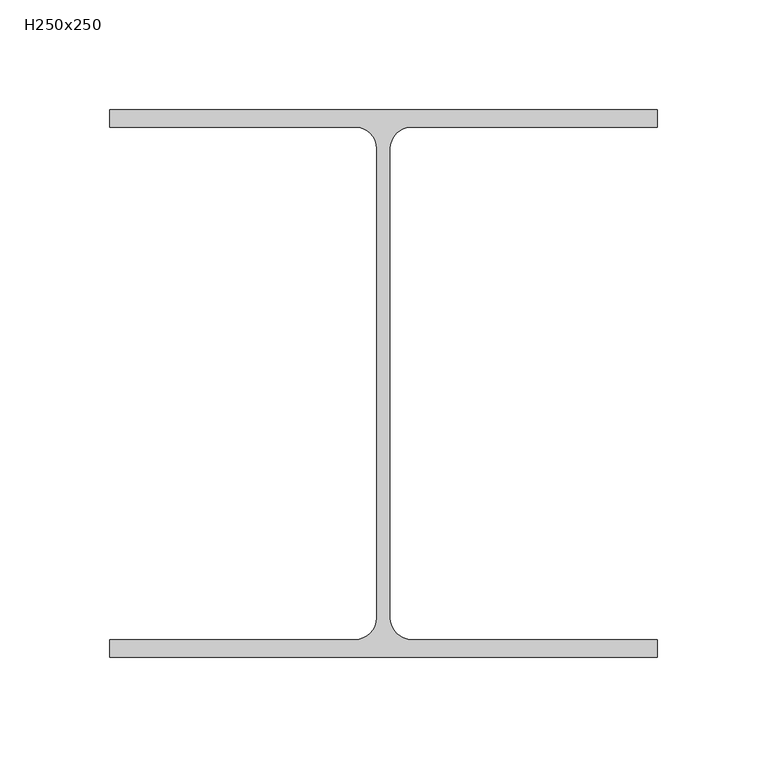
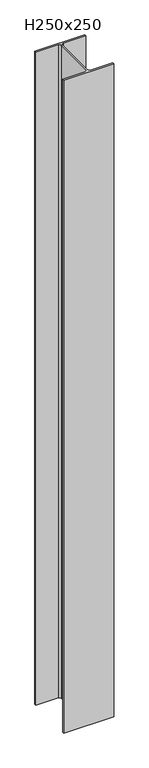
"""IFC4 building model written with IfcOpenShell, lengths in millimetres: column geometry, H型鋼柱 : H250x250."""

from ifc_helpers import new_model, si_unit, point, frame_2d, origin, origin_with_axes, place, context, project, spatial, polyline, circle_curve, trimmed, segment, composite_curve, outline, extrude, source, transform, mapped, element, save


def h250x250_a277a9c0(model_context):
    return source(origin(), model_context, "Body", "SweptSolid", [
        extrude(outline(composite_curve([segment(polyline([(125.0, 125.0), (125.0, 117.0), (13.0, 117.0)]), True, "CONTINUOUS"), segment(trimmed(circle_curve(frame_2d((13.0, 107.0)), 10.0), [point((13.0, 117.0))], [point((3.0, 107.0))], True, "CARTESIAN"), True, "CONTINUOUS"), segment(polyline([(3.0, 107.0), (3.0, -107.0)]), True, "CONTINUOUS"), segment(trimmed(circle_curve(frame_2d((13.0, -107.0)), 10.0), [point((3.0, -107.0))], [point((13.0, -117.0))], True, "CARTESIAN"), True, "CONTINUOUS"), segment(polyline([(13.0, -117.0), (125.0, -117.0), (125.0, -125.0), (-125.0, -125.0), (-125.0, -117.0), (-13.0, -117.0)]), True, "CONTINUOUS"), segment(trimmed(circle_curve(frame_2d((-13.0, -107.0)), 10.0), [point((-13.0, -117.0))], [point((-3.0, -107.0))], True, "CARTESIAN"), True, "CONTINUOUS"), segment(polyline([(-3.0, -107.0), (-3.0, 107.0)]), True, "CONTINUOUS"), segment(trimmed(circle_curve(frame_2d((-13.0, 107.0)), 10.0), [point((-3.0, 107.0))], [point((-13.0, 117.0))], True, "CARTESIAN"), True, "CONTINUOUS"), segment(polyline([(-13.0, 117.0), (-125.0, 117.0), (-125.0, 125.0), (125.0, 125.0)]), True, "CONTINUOUS")], self_intersect=False)), origin_with_axes(), (0.0, 0.0, 1.0), 3450.0),
    ])


if __name__ == "__main__":
    model = new_model("IFC4")
    model_context = context("Model", 3, world=origin())
    ifc_project = project(units=[si_unit("LENGTHUNIT", "METRE", prefix="MILLI")], contexts=[model_context])
    site = spatial("IfcSite", under=ifc_project)
    building = spatial("IfcBuilding", under=site)
    placement = place(None, origin())
    h250x250_shape = h250x250_a277a9c0(model_context)
    element("IfcColumn", 1, ObjectType="H型鋼柱 : H250x250", at=placement, inside=building, context=model_context, shape_type="MappedRepresentation", body=[
        mapped(h250x250_shape, transform((0.0, 0.0, 0.0), x_axis=(1.0, 0.0, 0.0), y_axis=(0.0, 1.0, 0.0), z_axis=(0.0, 0.0, 1.0))),
    ])
    save(model, "model.ifc")
